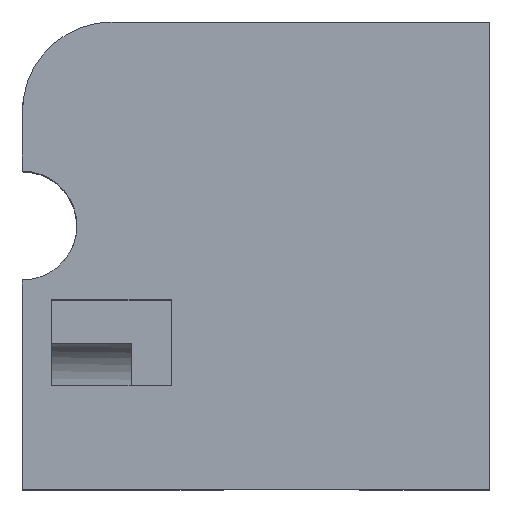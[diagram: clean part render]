
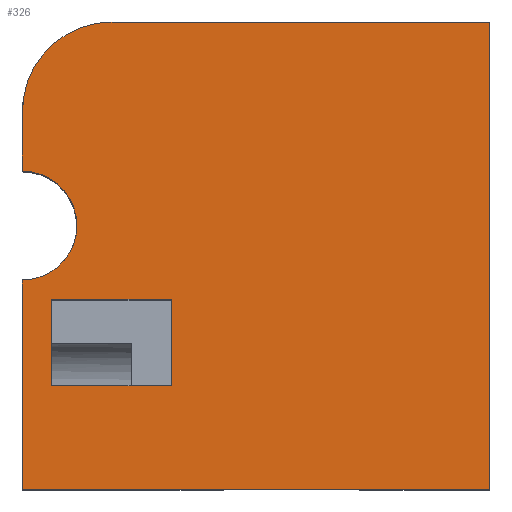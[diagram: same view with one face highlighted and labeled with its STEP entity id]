
A CAD part, top view. The second image highlights one B-rep face of the part: STEP entity #326.
In plain terms, the highlighted planar face has unit normal (0, 0, 1).
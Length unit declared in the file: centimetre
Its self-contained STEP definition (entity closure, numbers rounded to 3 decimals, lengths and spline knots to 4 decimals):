
#17 = CARTESIAN_POINT ( 'NONE',  ( 62.5714, 406.0971, 1000. ) ) ;
#21 = CARTESIAN_POINT ( 'NONE',  ( 191.7716, 1000., 1000. ) ) ;
#30 = LINE ( 'NONE', #17, #635 ) ;
#37 = EDGE_CURVE ( 'NONE', #502, #761, #1057, .T. ) ;
#49 = CARTESIAN_POINT ( 'NONE',  ( 0., 808.2284, 1000. ) ) ;
#54 = VERTEX_POINT ( 'NONE', #985 ) ;
#72 = CARTESIAN_POINT ( 'NONE',  ( 0., 564.2539, 1000. ) ) ;
#140 = CARTESIAN_POINT ( 'NONE',  ( 318.4933, 406.0971, 1000. ) ) ;
#153 = CARTESIAN_POINT ( 'NONE',  ( 0., 1000., 1000. ) ) ;
#172 = DIRECTION ( 'NONE',  ( 0., 0., 1. ) ) ;
#179 = ORIENTED_EDGE ( 'NONE', *, *, #37, .T. ) ;
#188 = VERTEX_POINT ( 'NONE', #321 ) ;
#211 = ORIENTED_EDGE ( 'NONE', *, *, #1160, .F. ) ;
#215 = CARTESIAN_POINT ( 'NONE',  ( 0., 0., 1000. ) ) ;
#218 = LINE ( 'NONE', #215, #1029 ) ;
#253 = CARTESIAN_POINT ( 'NONE',  ( 62.5714, 406.0971, 1000. ) ) ;
#308 = LINE ( 'NONE', #1018, #678 ) ;
#319 = CARTESIAN_POINT ( 'NONE',  ( 62.5714, 221.2909, 1000. ) ) ;
#321 = CARTESIAN_POINT ( 'NONE',  ( 0., 447.7634, 1000. ) ) ;
#323 = VECTOR ( 'NONE', #1268, 100. ) ;
#326 = ADVANCED_FACE ( 'NONE', ( #439, #428 ), #644, .T. ) ;
#336 = CARTESIAN_POINT ( 'NONE',  ( 0., 680.7445, 1000. ) ) ;
#339 = CARTESIAN_POINT ( 'NONE',  ( 0., 0., 1000. ) ) ;
#347 = VECTOR ( 'NONE', #750, 100. ) ;
#356 = DIRECTION ( 'NONE',  ( -1., 0., 0. ) ) ;
#358 = ORIENTED_EDGE ( 'NONE', *, *, #754, .T. ) ;
#371 = LINE ( 'NONE', #847, #347 ) ;
#382 = VERTEX_POINT ( 'NONE', #21 ) ;
#396 = ORIENTED_EDGE ( 'NONE', *, *, #815, .T. ) ;
#411 = VERTEX_POINT ( 'NONE', #140 ) ;
#420 = CIRCLE ( 'NONE', #1261, 191.7716 ) ;
#428 = FACE_OUTER_BOUND ( 'NONE', #1167, .T. ) ;
#439 = FACE_BOUND ( 'NONE', #1104, .T. ) ;
#449 = DIRECTION ( 'NONE',  ( -1., 0., 0. ) ) ;
#471 = DIRECTION ( 'NONE',  ( -1., 0., 0. ) ) ;
#502 = VERTEX_POINT ( 'NONE', #543 ) ;
#506 = EDGE_CURVE ( 'NONE', #411, #965, #30, .T. ) ;
#510 = CARTESIAN_POINT ( 'NONE',  ( 62.5714, 221.2909, 1000. ) ) ;
#523 = DIRECTION ( 'NONE',  ( 0., -1., 0. ) ) ;
#539 = DIRECTION ( 'NONE',  ( 1., 0., 0. ) ) ;
#543 = CARTESIAN_POINT ( 'NONE',  ( 1000., 0., 1000. ) ) ;
#559 = CARTESIAN_POINT ( 'NONE',  ( 1000., 1000., 1000. ) ) ;
#561 = LINE ( 'NONE', #827, #936 ) ;
#567 = ORIENTED_EDGE ( 'NONE', *, *, #1206, .T. ) ;
#593 = ORIENTED_EDGE ( 'NONE', *, *, #978, .T. ) ;
#616 = DIRECTION ( 'NONE',  ( 1., 0., 0. ) ) ;
#630 = CARTESIAN_POINT ( 'NONE',  ( 0., 1000., 1000. ) ) ;
#635 = VECTOR ( 'NONE', #356, 100. ) ;
#644 = PLANE ( 'NONE',  #864 ) ;
#649 = EDGE_CURVE ( 'NONE', #877, #54, #824, .T. ) ;
#655 = EDGE_CURVE ( 'NONE', #670, #502, #218, .T. ) ;
#659 = CARTESIAN_POINT ( 'NONE',  ( 1000., 1000., 1000. ) ) ;
#670 = VERTEX_POINT ( 'NONE', #339 ) ;
#676 = CARTESIAN_POINT ( 'NONE',  ( 191.7716, 808.2284, 1000. ) ) ;
#678 = VECTOR ( 'NONE', #523, 100. ) ;
#734 = LINE ( 'NONE', #630, #1141 ) ;
#750 = DIRECTION ( 'NONE',  ( 0., -1., 0. ) ) ;
#754 = EDGE_CURVE ( 'NONE', #1199, #188, #956, .T. ) ;
#761 = VERTEX_POINT ( 'NONE', #659 ) ;
#815 = EDGE_CURVE ( 'NONE', #382, #973, #420, .T. ) ;
#824 = LINE ( 'NONE', #319, #1177 ) ;
#827 = CARTESIAN_POINT ( 'NONE',  ( 318.4933, 221.2909, 1000. ) ) ;
#838 = DIRECTION ( 'NONE',  ( 0., 1., 0. ) ) ;
#843 = DIRECTION ( 'NONE',  ( 0., 1., 0. ) ) ;
#847 = CARTESIAN_POINT ( 'NONE',  ( 0., 1000., 1000. ) ) ;
#864 = AXIS2_PLACEMENT_3D ( 'NONE', #1044, #919, #539 ) ;
#877 = VERTEX_POINT ( 'NONE', #510 ) ;
#919 = DIRECTION ( 'NONE',  ( 0., 0., 1. ) ) ;
#936 = VECTOR ( 'NONE', #838, 100. ) ;
#948 = EDGE_CURVE ( 'NONE', #188, #670, #371, .T. ) ;
#956 = CIRCLE ( 'NONE', #1034, 116.4906 ) ;
#958 = LINE ( 'NONE', #153, #323 ) ;
#965 = VERTEX_POINT ( 'NONE', #253 ) ;
#973 = VERTEX_POINT ( 'NONE', #49 ) ;
#978 = EDGE_CURVE ( 'NONE', #973, #1199, #958, .T. ) ;
#985 = CARTESIAN_POINT ( 'NONE',  ( 318.4933, 221.2909, 1000. ) ) ;
#995 = DIRECTION ( 'NONE',  ( 1., 0., 0. ) ) ;
#1018 = CARTESIAN_POINT ( 'NONE',  ( 62.5714, 221.2909, 1000. ) ) ;
#1029 = VECTOR ( 'NONE', #616, 100. ) ;
#1030 = DIRECTION ( 'NONE',  ( 1., 0., 0. ) ) ;
#1034 = AXIS2_PLACEMENT_3D ( 'NONE', #72, #1096, #471 ) ;
#1044 = CARTESIAN_POINT ( 'NONE',  ( 0., 0., 1000. ) ) ;
#1057 = LINE ( 'NONE', #559, #1090 ) ;
#1060 = ORIENTED_EDGE ( 'NONE', *, *, #506, .F. ) ;
#1077 = ORIENTED_EDGE ( 'NONE', *, *, #1110, .F. ) ;
#1087 = ORIENTED_EDGE ( 'NONE', *, *, #649, .F. ) ;
#1090 = VECTOR ( 'NONE', #843, 100. ) ;
#1096 = DIRECTION ( 'NONE',  ( 0., 0., -1. ) ) ;
#1104 = EDGE_LOOP ( 'NONE', ( #1077, #1060, #211, #1087 ) ) ;
#1110 = EDGE_CURVE ( 'NONE', #965, #877, #308, .T. ) ;
#1141 = VECTOR ( 'NONE', #449, 100. ) ;
#1160 = EDGE_CURVE ( 'NONE', #54, #411, #561, .T. ) ;
#1167 = EDGE_LOOP ( 'NONE', ( #358, #1209, #1223, #179, #567, #396, #593 ) ) ;
#1177 = VECTOR ( 'NONE', #1030, 100. ) ;
#1199 = VERTEX_POINT ( 'NONE', #336 ) ;
#1206 = EDGE_CURVE ( 'NONE', #761, #382, #734, .T. ) ;
#1209 = ORIENTED_EDGE ( 'NONE', *, *, #948, .T. ) ;
#1223 = ORIENTED_EDGE ( 'NONE', *, *, #655, .T. ) ;
#1261 = AXIS2_PLACEMENT_3D ( 'NONE', #676, #172, #995 ) ;
#1268 = DIRECTION ( 'NONE',  ( 0., -1., 0. ) ) ;
